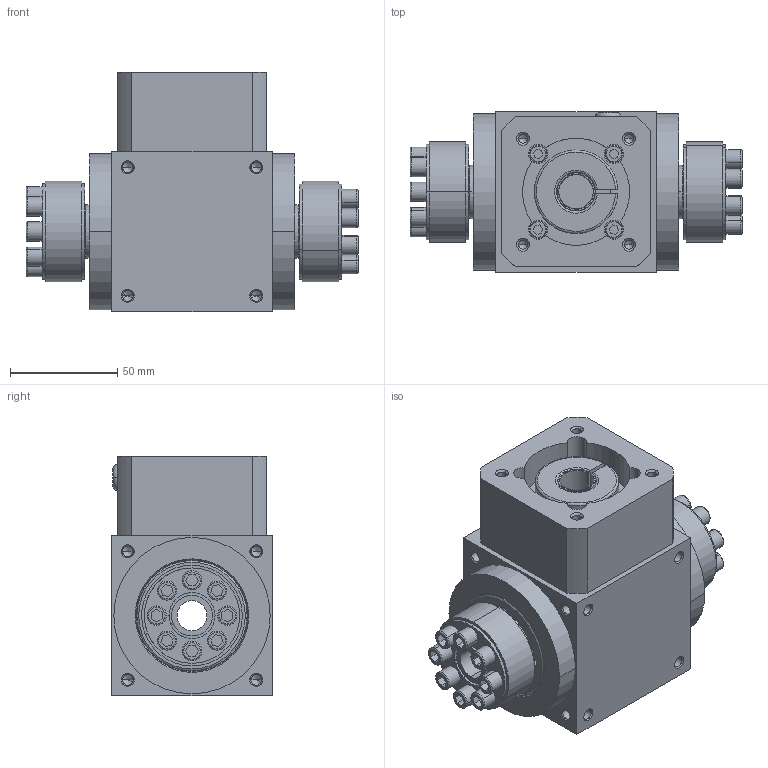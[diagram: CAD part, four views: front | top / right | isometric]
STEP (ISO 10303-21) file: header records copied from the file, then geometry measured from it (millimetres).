
FILE_DESCRIPTION (( 'STEP AP203' ), '1' );
FILE_NAME ('LAT75-C-ZJ2-19-47.STEP', '2025-01-10T07:47:02', ( '' ), ( '' ), 'SwSTEP 2.0', 'SolidWorks 2022', '' );
FILE_SCHEMA (( 'CONFIG_CONTROL_DESIGN' ));
Length unit declared in the file: millimetre
Products named in the file (1): LAT75-C-ZJ2-19-47
Bounding box: 155 x 75 x 112 mm (x, y, z)
Volume: 697970.2 mm3; surface area: 156673.9 mm2
Topology: 31 solids, 31 shells, 834 faces, 1963 edges, 1195 vertices
Faces by surface type: cylinder 331, plane 260, cone 195, torus 48
Entity records: 23829 total; most frequent: CARTESIAN_POINT 4377, DIRECTION 4286, ORIENTED_EDGE 3830, EDGE_CURVE 1915, AXIS2_PLACEMENT_3D 1672, VERTEX_POINT 1195, EDGE_LOOP 1000, LINE 942
